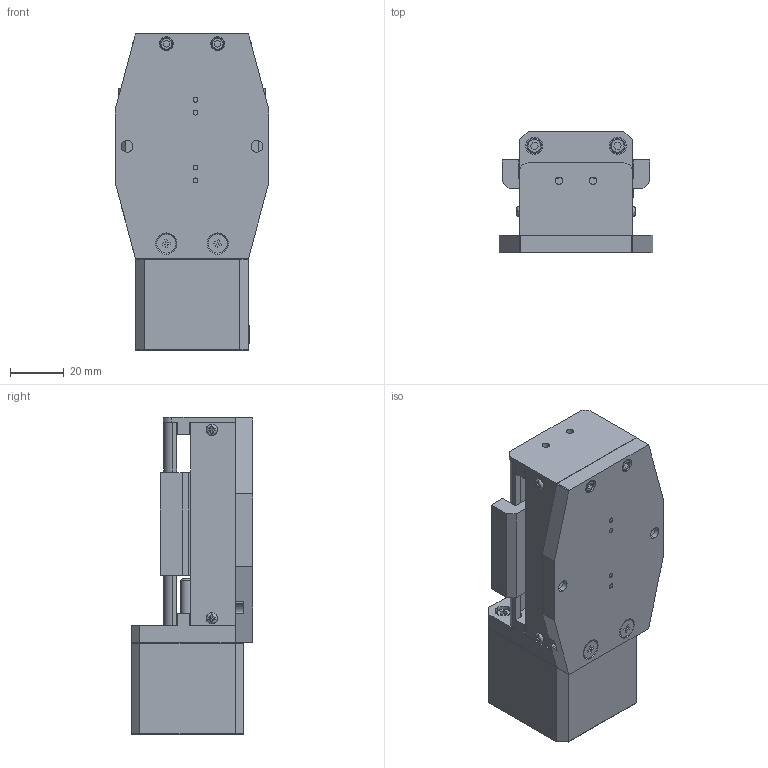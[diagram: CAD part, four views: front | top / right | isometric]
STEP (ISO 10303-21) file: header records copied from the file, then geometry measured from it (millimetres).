
FILE_DESCRIPTION (( 'STEP AP214' ), '1' );
FILE_NAME ('L3506.025-STA_v2_20180817.STEP', '2018-08-22T11:32:20', ( '' ), ( '' ), 'SwSTEP 2.0', 'SolidWorks 2017', '' );
FILE_SCHEMA (( 'AUTOMOTIVE_DESIGN' ));
Length unit declared in the file: millimetre
Products named in the file (1): L3506.025-STA_v2_20180817
Bounding box: 57.15 x 45.21 x 117.86 mm (x, y, z)
Volume: 141130.2 mm3; surface area: 66350.3 mm2
Topology: 28 solids, 28 shells, 718 faces, 1781 edges, 1144 vertices
Faces by surface type: plane 365, cylinder 251, cone 74, bspline 28
Entity records: 22765 total; most frequent: CARTESIAN_POINT 5048, DIRECTION 3567, ORIENTED_EDGE 3522, EDGE_CURVE 1761, AXIS2_PLACEMENT_3D 1297, VERTEX_POINT 1144, VECTOR 973, LINE 973
